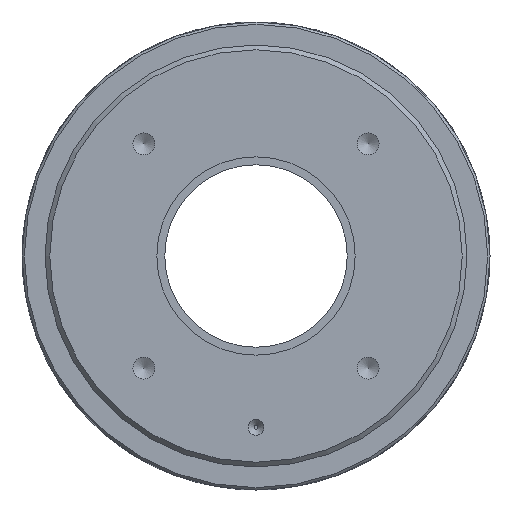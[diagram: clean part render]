
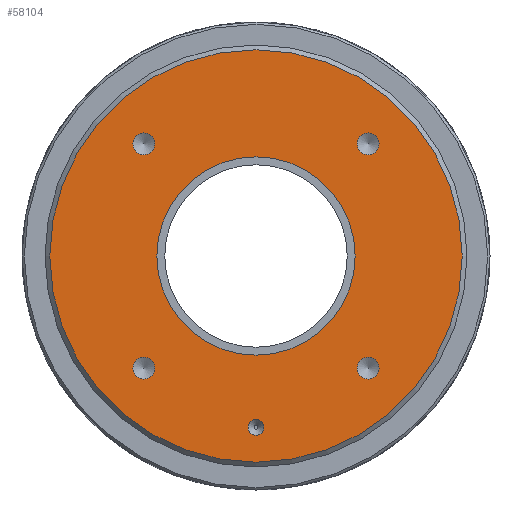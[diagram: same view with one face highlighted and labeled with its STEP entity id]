
A CAD part, left-side view. The second image highlights one B-rep face of the part: STEP entity #58104.
In plain terms, the highlighted planar face has unit normal (-1, 0, 0).
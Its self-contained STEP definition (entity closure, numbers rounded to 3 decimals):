
#376=FACE_BOUND('',#5581,.T.);
#377=FACE_BOUND('',#5582,.T.);
#378=FACE_BOUND('',#5583,.T.);
#379=FACE_BOUND('',#5584,.T.);
#380=FACE_BOUND('',#5585,.T.);
#381=FACE_BOUND('',#5586,.T.);
#705=PLANE('',#63702);
#2492=FACE_OUTER_BOUND('',#5580,.T.);
#5580=EDGE_LOOP('',(#42692));
#5581=EDGE_LOOP('',(#42693));
#5582=EDGE_LOOP('',(#42694));
#5583=EDGE_LOOP('',(#42695));
#5584=EDGE_LOOP('',(#42696));
#5585=EDGE_LOOP('',(#42697));
#5586=EDGE_LOOP('',(#42698));
#9731=CIRCLE('',#63665,5.);
#9737=CIRCLE('',#63677,6.918);
#9739=CIRCLE('',#63681,6.918);
#9741=CIRCLE('',#63685,6.918);
#9743=CIRCLE('',#63689,6.918);
#9749=CIRCLE('',#63701,62.5);
#9750=CIRCLE('',#63703,130.);
#22300=VERTEX_POINT('',#96491);
#22307=VERTEX_POINT('',#96516);
#22310=VERTEX_POINT('',#96525);
#22313=VERTEX_POINT('',#96534);
#22316=VERTEX_POINT('',#96543);
#22322=VERTEX_POINT('',#96564);
#22323=VERTEX_POINT('',#96568);
#29568=EDGE_CURVE('',#22300,#22300,#9731,.T.);
#29580=EDGE_CURVE('',#22307,#22307,#9737,.T.);
#29584=EDGE_CURVE('',#22310,#22310,#9739,.T.);
#29588=EDGE_CURVE('',#22313,#22313,#9741,.T.);
#29592=EDGE_CURVE('',#22316,#22316,#9743,.T.);
#29602=EDGE_CURVE('',#22322,#22322,#9749,.T.);
#29603=EDGE_CURVE('',#22323,#22323,#9750,.T.);
#42692=ORIENTED_EDGE('',*,*,#29603,.F.);
#42693=ORIENTED_EDGE('',*,*,#29568,.T.);
#42694=ORIENTED_EDGE('',*,*,#29580,.T.);
#42695=ORIENTED_EDGE('',*,*,#29584,.T.);
#42696=ORIENTED_EDGE('',*,*,#29588,.T.);
#42697=ORIENTED_EDGE('',*,*,#29592,.T.);
#42698=ORIENTED_EDGE('',*,*,#29602,.T.);
#58104=ADVANCED_FACE('',(#2492,#376,#377,#378,#379,#380,#381),#705,.T.);
#63665=AXIS2_PLACEMENT_3D('',#96492,#77358,#77359);
#63677=AXIS2_PLACEMENT_3D('',#96517,#77388,#77389);
#63681=AXIS2_PLACEMENT_3D('',#96526,#77398,#77399);
#63685=AXIS2_PLACEMENT_3D('',#96535,#77408,#77409);
#63689=AXIS2_PLACEMENT_3D('',#96544,#77418,#77419);
#63701=AXIS2_PLACEMENT_3D('',#96566,#77446,#77447);
#63702=AXIS2_PLACEMENT_3D('',#96567,#77448,#77449);
#63703=AXIS2_PLACEMENT_3D('',#96569,#77450,#77451);
#77358=DIRECTION('center_axis',(1.,0.,0.));
#77359=DIRECTION('ref_axis',(0.,0.,1.));
#77388=DIRECTION('center_axis',(1.,0.,0.));
#77389=DIRECTION('ref_axis',(0.,0.,1.));
#77398=DIRECTION('center_axis',(1.,0.,0.));
#77399=DIRECTION('ref_axis',(0.,0.,1.));
#77408=DIRECTION('center_axis',(1.,0.,0.));
#77409=DIRECTION('ref_axis',(0.,0.,1.));
#77418=DIRECTION('center_axis',(1.,0.,0.));
#77419=DIRECTION('ref_axis',(0.,0.,1.));
#77446=DIRECTION('center_axis',(1.,0.,0.));
#77447=DIRECTION('ref_axis',(0.,0.,-1.));
#77448=DIRECTION('center_axis',(-1.,0.,0.));
#77449=DIRECTION('ref_axis',(0.,0.,1.));
#77450=DIRECTION('center_axis',(1.,0.,0.));
#77451=DIRECTION('ref_axis',(0.,0.,-1.));
#96491=CARTESIAN_POINT('',(-32.25,0.,-113.));
#96492=CARTESIAN_POINT('Origin',(-32.25,0.,-108.));
#96516=CARTESIAN_POINT('',(-32.25,-70.711,63.793));
#96517=CARTESIAN_POINT('Origin',(-32.25,-70.711,70.711));
#96525=CARTESIAN_POINT('',(-32.25,70.711,-77.628));
#96526=CARTESIAN_POINT('Origin',(-32.25,70.711,-70.711));
#96534=CARTESIAN_POINT('',(-32.25,-70.711,-77.628));
#96535=CARTESIAN_POINT('Origin',(-32.25,-70.711,-70.711));
#96543=CARTESIAN_POINT('',(-32.25,70.711,63.793));
#96544=CARTESIAN_POINT('Origin',(-32.25,70.711,70.711));
#96564=CARTESIAN_POINT('',(-32.25,-62.5,0.));
#96566=CARTESIAN_POINT('Origin',(-32.25,0.,0.));
#96567=CARTESIAN_POINT('Origin',(-32.25,130.,0.));
#96568=CARTESIAN_POINT('',(-32.25,-130.,0.));
#96569=CARTESIAN_POINT('Origin',(-32.25,0.,0.));
